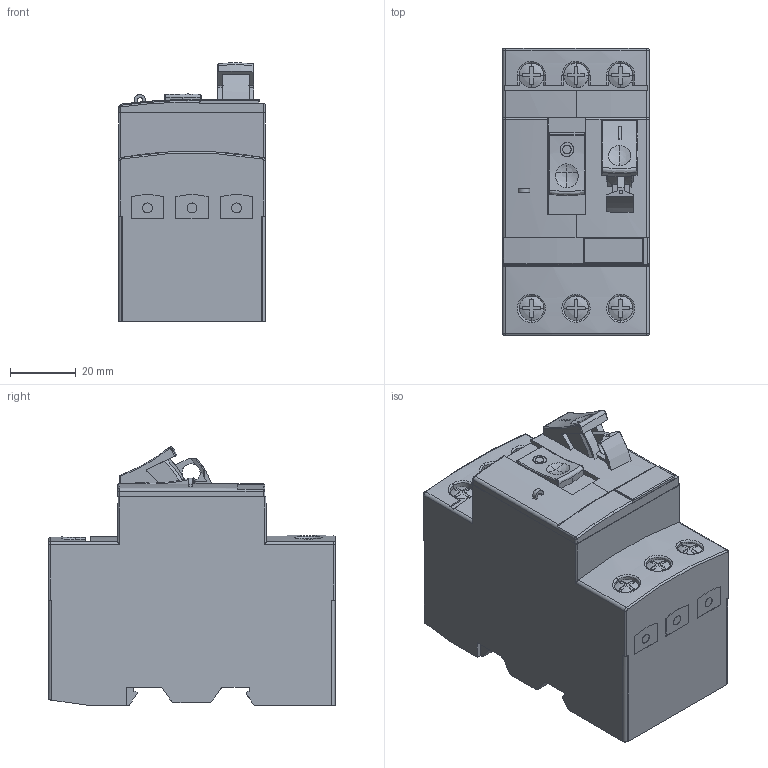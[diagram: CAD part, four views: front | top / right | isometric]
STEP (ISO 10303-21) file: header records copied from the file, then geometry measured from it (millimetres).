
FILE_DESCRIPTION(('CATIA V5 STEP Exchange'),'2;1');
FILE_NAME('E:\catwork\local\gv2me06_ew_test.stp','2011-04-15T09:54:03+00:00',('ARBURG GmbH+Co KG'),('none'),'CATIA Version 5 Release 19 SP 4 (IN-10)','CATIA V5 STEP AP214','ISO 16016');
FILE_SCHEMA(('AUTOMOTIVE_DESIGN { 1 0 10303 214 1 1 1 1 }'));
Length unit declared in the file: millimetre
Products named in the file (1): 090114B_GV2M1
Bounding box: 44.5 x 87 x 78.33 mm (x, y, z)
Volume: 222582.2 mm3; surface area: 25794.8 mm2
Topology: 1 solids, 4 shells, 503 faces, 1385 edges, 905 vertices
Faces by surface type: plane 283, cylinder 132, bspline 39, sphere 36, torus 11, cone 2
Entity records: 19162 total; most frequent: CARTESIAN_POINT 6657, ORIENTED_EDGE 2738, DIRECTION 1999, EDGE_CURVE 1369, VERTEX_POINT 893, AXIS2_PLACEMENT_3D 789, VECTOR 747, LINE 747
